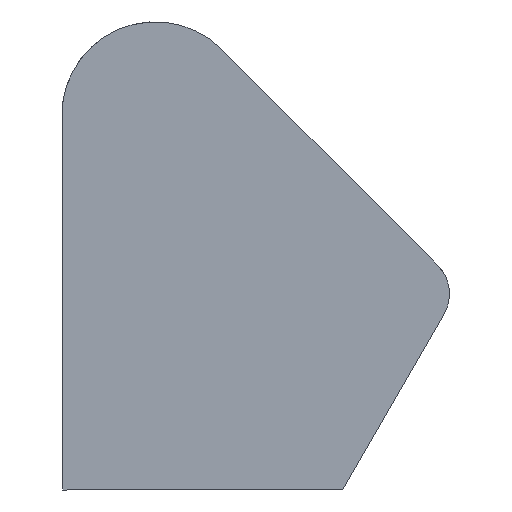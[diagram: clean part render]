
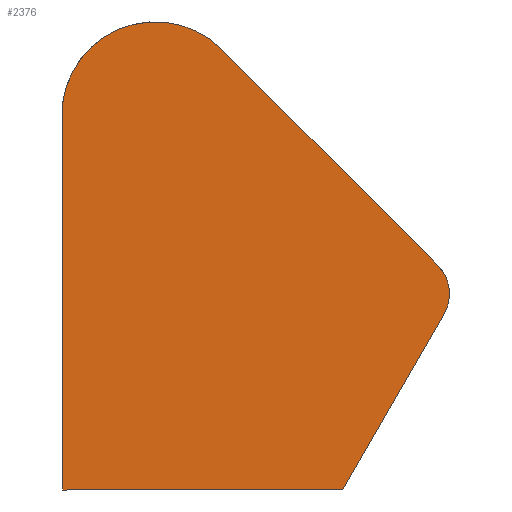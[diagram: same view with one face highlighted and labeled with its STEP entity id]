
A CAD part, left-side view. The second image highlights one B-rep face of the part: STEP entity #2376.
In plain terms, the highlighted planar face has unit normal (-1, 0, 0).
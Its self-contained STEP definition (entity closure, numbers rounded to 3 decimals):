
#44 = ORIENTED_EDGE ( 'NONE', *, *, #287, .T. ) ;
#77 = DIRECTION ( 'NONE',  ( 0., 0., 1. ) ) ;
#187 = DIRECTION ( 'NONE',  ( 0., 0.5, -0.866 ) ) ;
#195 = CIRCLE ( 'NONE', #2046, 0.25 ) ;
#209 = LINE ( 'NONE', #2852, #3854 ) ;
#214 = VERTEX_POINT ( 'NONE', #700 ) ;
#265 = CARTESIAN_POINT ( 'NONE',  ( -190., -45.998, -91.875 ) ) ;
#287 = EDGE_CURVE ( 'NONE', #2078, #1658, #1951, .T. ) ;
#432 = AXIS2_PLACEMENT_3D ( 'NONE', #2058, #1983, #1859 ) ;
#453 = CARTESIAN_POINT ( 'NONE',  ( -190., 0., 0. ) ) ;
#571 = ORIENTED_EDGE ( 'NONE', *, *, #4511, .F. ) ;
#623 = VERTEX_POINT ( 'NONE', #3071 ) ;
#700 = CARTESIAN_POINT ( 'NONE',  ( -190., 22.804, -92. ) ) ;
#729 = DIRECTION ( 'NONE',  ( 0., 0., 1. ) ) ;
#748 = ORIENTED_EDGE ( 'NONE', *, *, #1357, .T. ) ;
#1271 = LINE ( 'NONE', #2918, #3055 ) ;
#1332 = CARTESIAN_POINT ( 'NONE',  ( -190., -16.263, 16.263 ) ) ;
#1345 = VECTOR ( 'NONE', #4069, 1000. ) ;
#1357 = EDGE_CURVE ( 'NONE', #3381, #3476, #2379, .T. ) ;
#1649 = EDGE_CURVE ( 'NONE', #214, #1658, #1271, .T. ) ;
#1658 = VERTEX_POINT ( 'NONE', #2934 ) ;
#1662 = EDGE_CURVE ( 'NONE', #2078, #3476, #209, .T. ) ;
#1859 = DIRECTION ( 'NONE',  ( 0., 0., 1. ) ) ;
#1951 = CIRCLE ( 'NONE', #4495, 23. ) ;
#1961 = CARTESIAN_POINT ( 'NONE',  ( -190., -45.782, -91.75 ) ) ;
#1983 = DIRECTION ( 'NONE',  ( -1., 0., 0. ) ) ;
#2046 = AXIS2_PLACEMENT_3D ( 'NONE', #1961, #4385, #2304 ) ;
#2058 = CARTESIAN_POINT ( 'NONE',  ( -190., 0., 0. ) ) ;
#2078 = VERTEX_POINT ( 'NONE', #1332 ) ;
#2212 = ORIENTED_EDGE ( 'NONE', *, *, #3876, .T. ) ;
#2304 = DIRECTION ( 'NONE',  ( 0., 0., 1. ) ) ;
#2318 = PLANE ( 'NONE',  #432 ) ;
#2376 = ADVANCED_FACE ( 'NONE', ( #3781 ), #2318, .T. ) ;
#2379 = CIRCLE ( 'NONE', #3940, 10. ) ;
#2466 = EDGE_LOOP ( 'NONE', ( #44, #2835, #2970, #2212, #571, #748, #2889 ) ) ;
#2580 = DIRECTION ( 'NONE',  ( -1., 0., 0. ) ) ;
#2610 = CARTESIAN_POINT ( 'NONE',  ( -190., -70.861, -48.812 ) ) ;
#2615 = DIRECTION ( 'NONE',  ( 0., -0.707, -0.707 ) ) ;
#2676 = CARTESIAN_POINT ( 'NONE',  ( -190., -74.282, -42.887 ) ) ;
#2697 = CARTESIAN_POINT ( 'NONE',  ( -190., 0., -92. ) ) ;
#2733 = LINE ( 'NONE', #2676, #3554 ) ;
#2835 = ORIENTED_EDGE ( 'NONE', *, *, #1649, .F. ) ;
#2852 = CARTESIAN_POINT ( 'NONE',  ( -190., -16.263, 16.264 ) ) ;
#2859 = DIRECTION ( 'NONE',  ( 0., 0., 1. ) ) ;
#2889 = ORIENTED_EDGE ( 'NONE', *, *, #1662, .F. ) ;
#2918 = CARTESIAN_POINT ( 'NONE',  ( -190., 22.804, 0. ) ) ;
#2934 = CARTESIAN_POINT ( 'NONE',  ( -190., 22.804, 3. ) ) ;
#2970 = ORIENTED_EDGE ( 'NONE', *, *, #3610, .F. ) ;
#3055 = VECTOR ( 'NONE', #2859, 1000. ) ;
#3071 = CARTESIAN_POINT ( 'NONE',  ( -190., -45.782, -92. ) ) ;
#3129 = LINE ( 'NONE', #2697, #1345 ) ;
#3263 = CARTESIAN_POINT ( 'NONE',  ( -190., -62.2, -43.812 ) ) ;
#3381 = VERTEX_POINT ( 'NONE', #2610 ) ;
#3476 = VERTEX_POINT ( 'NONE', #4208 ) ;
#3554 = VECTOR ( 'NONE', #187, 1000. ) ;
#3610 = EDGE_CURVE ( 'NONE', #623, #214, #3129, .T. ) ;
#3781 = FACE_OUTER_BOUND ( 'NONE', #2466, .T. ) ;
#3854 = VECTOR ( 'NONE', #2615, 1000. ) ;
#3876 = EDGE_CURVE ( 'NONE', #623, #4073, #195, .T. ) ;
#3940 = AXIS2_PLACEMENT_3D ( 'NONE', #3263, #4363, #729 ) ;
#4069 = DIRECTION ( 'NONE',  ( 0., 1., 0. ) ) ;
#4073 = VERTEX_POINT ( 'NONE', #265 ) ;
#4208 = CARTESIAN_POINT ( 'NONE',  ( -190., -69.272, -36.741 ) ) ;
#4363 = DIRECTION ( 'NONE',  ( -1., 0., 0. ) ) ;
#4385 = DIRECTION ( 'NONE',  ( -1., 0., 0. ) ) ;
#4495 = AXIS2_PLACEMENT_3D ( 'NONE', #453, #2580, #77 ) ;
#4511 = EDGE_CURVE ( 'NONE', #3381, #4073, #2733, .T. ) ;
